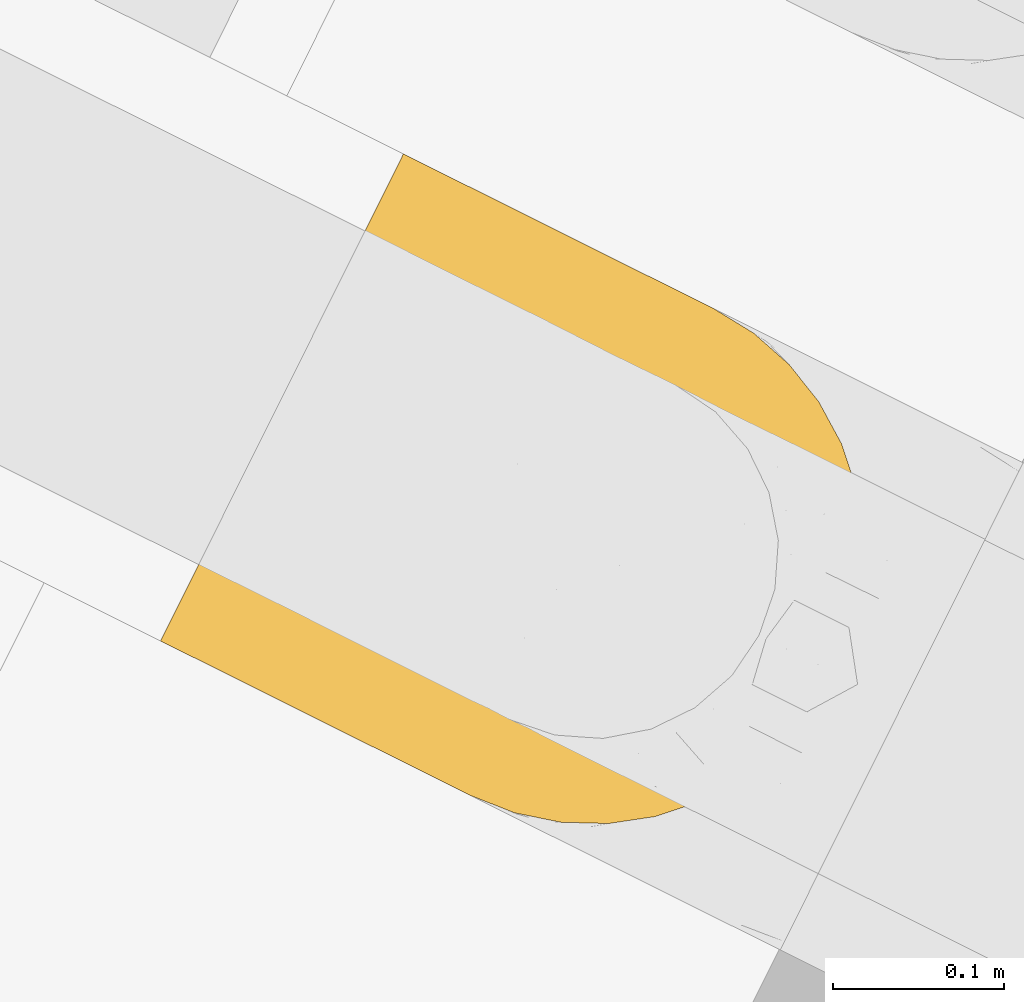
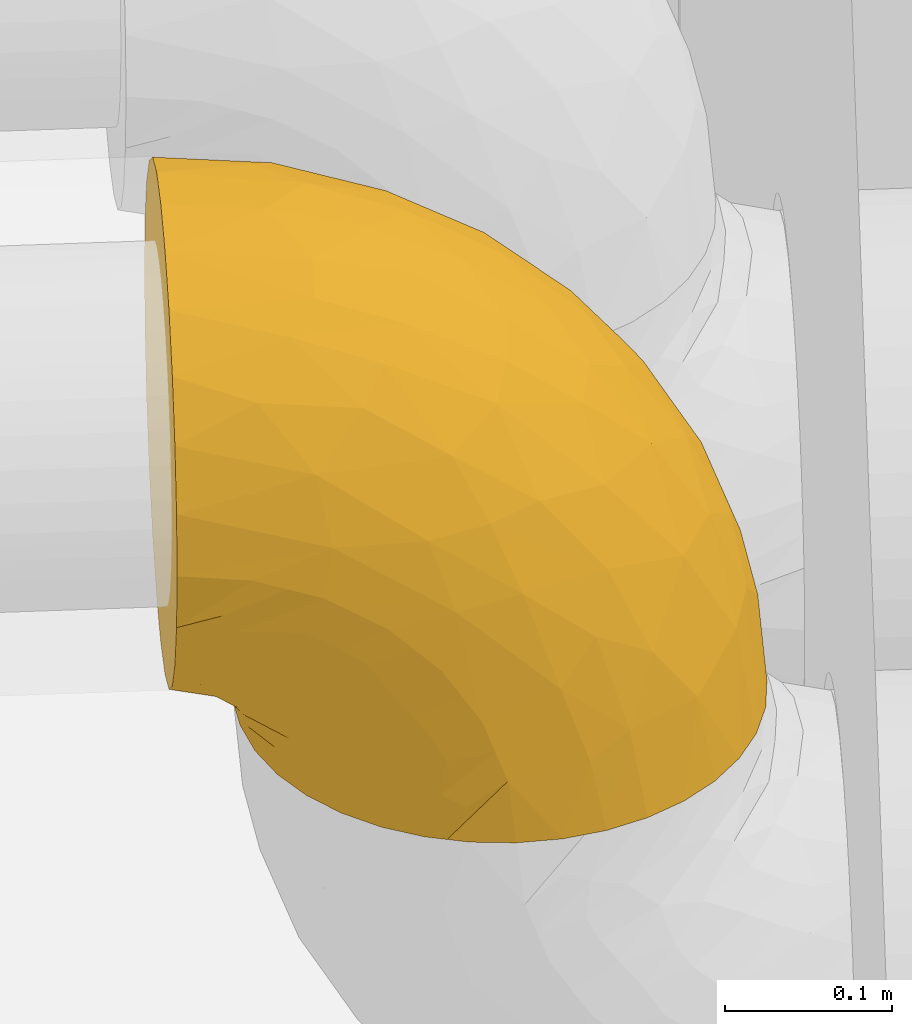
# One storey, part 44 of 91: 1 covering.
"""IFC2X3 building model written with IfcOpenShell, lengths in metres."""

from ifc_helpers import new_model, entity, si_unit, converted_unit, derived_unit, direction, frame, origin, place, context, subcontext, project, spatial, faceted_brep, element, save


model = new_model("IFC2X3")

# Units and contexts
model_context = context("Model", 3, precision=1e-05, world=origin(), true_north=direction((0.894925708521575, 0.446215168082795)))
context_of_model = context(None, 3, precision=1e-05, world=origin(), true_north=direction((0.894925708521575, 0.446215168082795)))
body_context = subcontext(model_context, "Body", "Model", "MODEL_VIEW")
ifc_project = project(units=[si_unit("LENGTHUNIT", "METRE"), si_unit("AREAUNIT", "SQUARE_METRE"), si_unit("VOLUMEUNIT", "CUBIC_METRE"), converted_unit("PLANEANGLEUNIT", "DEGREE", entity("IfcRatioMeasure", 0.0174532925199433), si_unit("PLANEANGLEUNIT", "RADIAN"), dimensions=[0, 0, 0, 0, 0, 0, 0]), si_unit("MASSUNIT", "GRAM", prefix="KILO"), si_unit("TIMEUNIT", "SECOND"), si_unit("FREQUENCYUNIT", "HERTZ"), si_unit("THERMODYNAMICTEMPERATUREUNIT", "DEGREE_CELSIUS"), derived_unit("THERMALTRANSMITTANCEUNIT", [(si_unit("MASSUNIT", "GRAM", prefix="KILO"), 1), (si_unit("THERMODYNAMICTEMPERATUREUNIT", "KELVIN"), -1), (si_unit("TIMEUNIT", "SECOND"), -3)]), derived_unit("VOLUMETRICFLOWRATEUNIT", [(si_unit("LENGTHUNIT", "METRE"), 3), (si_unit("TIMEUNIT", "SECOND"), -1)]), si_unit("ELECTRICCURRENTUNIT", "AMPERE"), si_unit("ELECTRICVOLTAGEUNIT", "VOLT"), si_unit("POWERUNIT", "WATT"), si_unit("FORCEUNIT", "NEWTON", prefix="KILO"), si_unit("ILLUMINANCEUNIT", "LUX"), si_unit("LUMINOUSFLUXUNIT", "LUMEN"), si_unit("LUMINOUSINTENSITYUNIT", "CANDELA"), si_unit("PRESSUREUNIT", "PASCAL")], contexts=[model_context, context_of_model])

# Site, building, storey
site_placement = place(None, frame((218.228324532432, 584.720189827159, 0.0), z_axis=(0.0, 0.0, 1.0), x_axis=(0.446215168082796, 0.894925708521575, 0.0)))
site = spatial("IfcSite", under=ifc_project, at=site_placement, Name="Default", CompositionType="ELEMENT")
building_placement = place(site_placement, origin())
building = spatial("IfcBuilding", under=site, at=building_placement, CompositionType="ELEMENT")
storey_placement = place(building_placement, origin())
storey = spatial("IfcBuildingStorey", under=building, at=storey_placement, Name="0 - Piano Terra", CompositionType="ELEMENT", Elevation=0.0)

# Covering
covering_placement = place(storey_placement, frame((-30.8033657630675, -4.95989083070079, 2.8714047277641)))
element("IfcCovering", 1, at=covering_placement, inside=storey, Name="Isolamento tubazione:Default", ObjectType="Isolamento tubazione:Default", PredefinedType="INSULATION", context=body_context, shape_type="Brep", body=[
    faceted_brep([(0.311074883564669, 0.215710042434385, 0.00159527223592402), (0.318272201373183, 0.18884600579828, 0.00159527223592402), (0.319748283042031, 0.17197132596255, 0.00159527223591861), (0.320695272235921, 0.161145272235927, 0.00159527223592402), (0.318271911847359, 0.133442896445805, 0.00159527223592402), (0.311073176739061, 0.106575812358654, 0.00159527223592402), (0.29931755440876, 0.0813666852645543, 0.00159527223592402), (0.283365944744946, 0.0585864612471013, 0.00159527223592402), (0.263703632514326, 0.0389242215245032, 0.00159527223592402), (0.240919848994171, 0.0229706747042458, 0.00159527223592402), (0.21571004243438, 0.0112156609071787, 0.00159527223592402), (0.188846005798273, 0.00401834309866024, 0.00159527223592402), (0.161145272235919, 0.00159527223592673, 0.00159527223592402), (0.133442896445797, 0.00401863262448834, 0.00159527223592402), (0.106575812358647, 0.0112173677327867, 0.00159527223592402), (0.0813666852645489, 0.0229729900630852, 0.00159527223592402), (0.0585864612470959, 0.038924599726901, 0.00159527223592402), (0.0389242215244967, 0.0585869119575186, 0.00159527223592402), (0.0229706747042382, 0.0813706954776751, 0.00159527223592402), (0.0112156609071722, 0.106580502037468, 0.00159527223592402), (0.00401834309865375, 0.133444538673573, 0.00159527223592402), (0.00159527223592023, 0.161145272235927, 0.00159527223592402), (0.00254231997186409, 0.17197134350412, 0.00159527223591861), (0.0040186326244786, 0.188847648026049, 0.00159527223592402), (0.00761800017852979, 0.202281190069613, 0.00159527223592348), (0.0112173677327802, 0.2157147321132, 0.00159527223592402), (0.0229729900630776, 0.240923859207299, 0.00159527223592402), (0.0389245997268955, 0.263704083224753, 0.00159527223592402), (0.058586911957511, 0.28336632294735, 0.00159527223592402), (0.0813706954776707, 0.299319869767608, 0.00159527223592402), (0.106580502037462, 0.311074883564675, 0.00159527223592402), (0.133444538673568, 0.318272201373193, 0.00159527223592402), (0.161145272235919, 0.320695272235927, 0.00159527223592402), (0.18884764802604, 0.318271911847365, 0.00159527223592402), (0.21571473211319, 0.311073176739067, 0.00159527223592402), (0.240923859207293, 0.299317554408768, 0.00159527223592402), (0.263704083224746, 0.283365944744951, 0.00159527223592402), (0.283366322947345, 0.263703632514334, 0.00159527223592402), (0.299319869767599, 0.240919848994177, 0.00159527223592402), (0.0483263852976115, 0.364145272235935, 0.0917763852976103), (0.0356486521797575, 0.364145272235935, 0.108298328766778), (0.0229709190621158, 0.364145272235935, 0.124820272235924), (0.0150013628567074, 0.364145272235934, 0.144060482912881), (0.00703180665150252, 0.364145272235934, 0.163300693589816), (0.00448125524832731, 0.364145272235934, 0.182674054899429), (0.00303826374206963, 0.364145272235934, 0.193634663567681), (0.00159527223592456, 0.364145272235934, 0.204595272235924), (0.00703180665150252, 0.364145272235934, 0.245889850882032), (0.0229709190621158, 0.364145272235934, 0.284370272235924), (0.0483263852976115, 0.364145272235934, 0.317414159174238), (0.0813702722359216, 0.364145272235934, 0.342769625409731), (0.119850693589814, 0.364145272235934, 0.358708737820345), (0.161145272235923, 0.364145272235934, 0.364145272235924), (0.202439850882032, 0.364145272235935, 0.358708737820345), (0.240920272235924, 0.364145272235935, 0.342769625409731), (0.273964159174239, 0.364145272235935, 0.317414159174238), (0.29931962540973, 0.364145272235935, 0.284370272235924), (0.315258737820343, 0.364145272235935, 0.245889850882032), (0.320695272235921, 0.364145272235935, 0.204595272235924), (0.31925228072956, 0.364145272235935, 0.193634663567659), (0.317809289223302, 0.364145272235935, 0.182674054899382), (0.315258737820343, 0.364145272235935, 0.163300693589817), (0.307289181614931, 0.364145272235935, 0.144060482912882), (0.29931962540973, 0.364145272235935, 0.124820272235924), (0.286641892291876, 0.364145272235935, 0.108298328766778), (0.273964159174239, 0.364145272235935, 0.0917763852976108), (0.240920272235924, 0.364145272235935, 0.0664209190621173), (0.202439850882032, 0.364145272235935, 0.0504818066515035), (0.161145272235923, 0.364145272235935, 0.0450452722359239), (0.119850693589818, 0.364145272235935, 0.0504818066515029), (0.0813702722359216, 0.364145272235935, 0.0664209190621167), (0.0648483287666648, 0.364145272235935, 0.0790986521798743), (0.201172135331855, 0.275645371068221, 0.347913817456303), (0.161145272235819, 0.301189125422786, 0.358637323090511), (0.161145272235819, 0.240145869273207, 0.342280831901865), (0.306467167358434, 0.192702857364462, 0.208704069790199), (0.317175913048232, 0.197037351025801, 0.168703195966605), (0.312260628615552, 0.257674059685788, 0.232411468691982), (0.320695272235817, 0.2375768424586, 0.160307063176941), (0.320695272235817, 0.256821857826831, 0.172399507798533), (0.320695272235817, 0.276066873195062, 0.184491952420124), (0.228888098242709, 0.223051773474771, 0.319112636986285), (0.198715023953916, 0.215164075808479, 0.327193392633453), (0.197144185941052, 0.159526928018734, 0.295886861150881), (0.265288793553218, 0.0926591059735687, 0.178199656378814), (0.279139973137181, 0.144663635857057, 0.221076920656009), (0.251711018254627, 0.130966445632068, 0.241221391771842), (0.227840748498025, 0.305777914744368, 0.344605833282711), (0.283559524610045, 0.314219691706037, 0.302813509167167), (0.309327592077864, 0.149883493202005, 0.152632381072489), (0.161145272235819, 0.182870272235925, 0.315572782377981), (0.161145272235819, 0.131102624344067, 0.279324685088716), (0.188773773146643, 0.109488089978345, 0.256252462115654), (0.161145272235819, 0.0864158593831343, 0.234637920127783), (0.320695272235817, 0.166234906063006, 0.0467670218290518), (0.317175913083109, 0.146967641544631, 0.094783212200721), (0.277616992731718, 0.250140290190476, 0.292067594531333), (0.296288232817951, 0.229011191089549, 0.25570716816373), (0.30429953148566, 0.301075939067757, 0.267671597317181), (0.222697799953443, 0.0236515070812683, 0.0834683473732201), (0.198695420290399, 0.0385683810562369, 0.150634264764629), (0.19067392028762, 0.0156740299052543, 0.0911457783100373), (0.320695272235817, 0.318973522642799, 0.199505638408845), (0.320695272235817, 0.341788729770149, 0.202076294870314), (0.320695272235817, 0.352967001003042, 0.203335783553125), (0.252196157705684, 0.292024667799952, 0.327735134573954), (0.161145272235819, 0.0234597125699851, 0.125594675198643), (0.161145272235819, 0.0501677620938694, 0.182870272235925), (0.320695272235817, 0.297520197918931, 0.191998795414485), (0.301023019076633, 0.0922467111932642, 0.067403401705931), (0.21956288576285, 0.115617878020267, 0.250122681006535), (0.204386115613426, 0.0731547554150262, 0.207684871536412), (0.233310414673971, 0.084601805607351, 0.204290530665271), (0.282350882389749, 0.0773627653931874, 0.11047740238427), (0.268310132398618, 0.0495812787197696, 0.0665622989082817), (0.289509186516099, 0.11429340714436, 0.163562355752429), (0.239797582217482, 0.0561833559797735, 0.149912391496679), (0.161145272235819, 0.00710322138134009, 0.064551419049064), (0.320695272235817, 0.162404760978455, 0.0127735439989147), (0.320695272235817, 0.163664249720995, 0.023951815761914), (0.320695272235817, 0.181248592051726, 0.0896736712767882), (0.320695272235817, 0.193341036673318, 0.10891868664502), (0.320695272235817, 0.20543348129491, 0.128163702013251), (0.320695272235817, 0.173741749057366, 0.0682203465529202), (0.320695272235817, 0.221505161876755, 0.144235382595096), (0.234514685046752, 0.166460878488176, 0.283951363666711), (0.267559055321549, 0.185436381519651, 0.269306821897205), (0.255020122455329, 0.223925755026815, 0.30254289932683), (0.193767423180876, 0.324911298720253, 0.0271465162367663), (0.317837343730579, 0.337277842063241, 0.172432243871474), (0.302389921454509, 0.237558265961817, 0.0253498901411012), (0.315096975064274, 0.328080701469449, 0.158613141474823), (0.290371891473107, 0.267743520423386, 0.0533645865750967), (0.268216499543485, 0.282779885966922, 0.0251720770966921), (0.272627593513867, 0.287013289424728, 0.045717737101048), (0.315587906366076, 0.270555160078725, 0.134992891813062), (0.31321863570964, 0.258245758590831, 0.114409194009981), (0.302643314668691, 0.285245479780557, 0.104008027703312), (0.314805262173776, 0.210134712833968, 0.0451423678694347), (0.242685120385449, 0.334476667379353, 0.0603938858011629), (0.267865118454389, 0.339736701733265, 0.0823838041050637), (0.26945072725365, 0.319015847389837, 0.0746164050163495), (0.296967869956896, 0.253348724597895, 0.0457848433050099), (0.310493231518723, 0.242127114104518, 0.0833280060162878), (0.315769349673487, 0.217507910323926, 0.0742742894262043), (0.263416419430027, 0.303705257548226, 0.0548255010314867), (0.292249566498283, 0.27527693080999, 0.0698784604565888), (0.246211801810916, 0.30110672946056, 0.0271436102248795), (0.289082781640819, 0.311576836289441, 0.0955577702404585), (0.203370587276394, 0.339341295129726, 0.0440145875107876), (0.224672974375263, 0.31951244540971, 0.0364709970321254), (0.317566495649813, 0.23262403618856, 0.111751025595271), (0.31854887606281, 0.217038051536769, 0.0998764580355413), (0.213089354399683, 0.314843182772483, 0.0185697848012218), (0.317379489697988, 0.196765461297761, 0.0347995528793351), (0.286225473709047, 0.295924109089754, 0.0800249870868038), (0.291795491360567, 0.344962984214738, 0.111352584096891), (0.161145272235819, 0.326516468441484, 0.023320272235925), (0.161145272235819, 0.342420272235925, 0.0392240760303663), (0.291152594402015, 0.329719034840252, 0.106606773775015), (0.317781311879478, 0.29329998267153, 0.159036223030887), (0.314129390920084, 0.289482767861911, 0.14050134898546), (0.305217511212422, 0.297029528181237, 0.118092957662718), (0.3083110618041, 0.315309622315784, 0.13426083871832), (0.309107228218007, 0.255196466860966, 0.0946896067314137), (0.304103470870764, 0.339551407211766, 0.13144064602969), (0.0481611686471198, 0.280281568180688, 0.0352015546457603), (0.030190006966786, 0.274410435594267, 0.0683770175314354), (0.0185577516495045, 0.247884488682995, 0.0628508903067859), (0.130051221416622, 0.323578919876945, 0.0243434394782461), (0.119520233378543, 0.336527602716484, 0.0420410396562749), (0.0579185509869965, 0.343779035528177, 0.0803473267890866), (0.0377646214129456, 0.338896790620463, 0.100255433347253), (0.0138743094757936, 0.267508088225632, 0.10512095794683), (0.00429194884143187, 0.249727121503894, 0.132405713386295), (0.0131660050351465, 0.288664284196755, 0.123461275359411), (0.00537209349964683, 0.223062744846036, 0.0937077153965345), (0.0150970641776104, 0.257122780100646, 0.0899238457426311), (0.00159527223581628, 0.193341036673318, 0.108918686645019), (0.00497002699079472, 0.211214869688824, 0.0766563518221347), (0.00159527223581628, 0.318973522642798, 0.199505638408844), (0.00159527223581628, 0.341788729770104, 0.202076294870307), (0.00159527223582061, 0.352967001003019, 0.203335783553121), (0.0564962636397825, 0.327025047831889, 0.0753443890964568), (0.0378033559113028, 0.320742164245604, 0.0936706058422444), (0.00445320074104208, 0.337277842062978, 0.17243224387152), (0.110600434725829, 0.314621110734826, 0.0163235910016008), (0.078110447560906, 0.301284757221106, 0.0240766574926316), (0.100177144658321, 0.318085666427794, 0.0326633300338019), (0.0143592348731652, 0.316513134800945, 0.133742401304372), (0.0184044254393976, 0.340160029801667, 0.131110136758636), (0.056848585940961, 0.294403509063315, 0.0452142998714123), (0.00159527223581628, 0.29752019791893, 0.191998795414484), (0.0365446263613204, 0.302061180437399, 0.0842148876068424), (0.00719356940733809, 0.32808070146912, 0.158613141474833), (0.00159527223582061, 0.16240476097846, 0.0127735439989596), (0.00159527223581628, 0.163664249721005, 0.0239518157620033), (0.00159527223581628, 0.166234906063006, 0.0467670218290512), (0.0326636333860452, 0.259460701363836, 0.0297424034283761), (0.00538278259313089, 0.237066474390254, 0.112156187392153), (0.00159527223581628, 0.221505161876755, 0.144235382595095), (0.0136433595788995, 0.228265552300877, 0.0434416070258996), (0.0807011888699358, 0.336132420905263, 0.0604863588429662), (0.00159527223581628, 0.181248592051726, 0.0896736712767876), (0.00159527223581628, 0.173741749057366, 0.0682203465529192), (0.00401153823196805, 0.190630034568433, 0.0268111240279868), (0.00708777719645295, 0.206112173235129, 0.0348646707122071), (0.00434202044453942, 0.264351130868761, 0.143549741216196), (0.00159527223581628, 0.276066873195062, 0.184491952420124), (0.0809621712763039, 0.320790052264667, 0.050107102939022), (0.0539826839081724, 0.304186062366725, 0.0615545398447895), (0.0046853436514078, 0.202773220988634, 0.0603958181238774), (0.00426342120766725, 0.288174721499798, 0.15807138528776), (0.00159527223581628, 0.20543348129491, 0.12816370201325), (0.00159527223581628, 0.2375768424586, 0.16030706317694), (0.00159527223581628, 0.256821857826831, 0.172399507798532), (0.00511463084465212, 0.197037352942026, 0.168703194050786), (0.133516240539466, 0.109488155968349, 0.256252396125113), (0.117903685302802, 0.0731551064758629, 0.207685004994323), (0.0185835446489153, 0.279870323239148, 0.262986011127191), (0.0446735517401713, 0.250140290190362, 0.292067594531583), (0.0387310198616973, 0.314219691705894, 0.302813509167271), (0.00511463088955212, 0.270957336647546, 0.218772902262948), (0.0539801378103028, 0.0495818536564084, 0.0665638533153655), (0.0212654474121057, 0.0922510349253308, 0.067405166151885), (0.00960242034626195, 0.13430515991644, 0.107126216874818), (0.0705791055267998, 0.104351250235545, 0.212070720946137), (0.0431505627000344, 0.144663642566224, 0.221076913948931), (0.0425043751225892, 0.104304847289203, 0.170072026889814), (0.102726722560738, 0.115618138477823, 0.250122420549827), (0.0713886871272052, 0.168429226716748, 0.273365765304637), (0.125145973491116, 0.159526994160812, 0.295886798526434), (0.0946001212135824, 0.276041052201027, 0.338268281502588), (0.070094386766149, 0.29202466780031, 0.327735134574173), (0.131839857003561, 0.214728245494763, 0.328942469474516), (0.0972173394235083, 0.161374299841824, 0.285870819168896), (0.093402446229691, 0.223051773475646, 0.319112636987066), (0.121118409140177, 0.275645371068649, 0.347913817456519), (0.0255526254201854, 0.175378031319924, 0.217897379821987), (0.00962930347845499, 0.116541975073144, 0.0535290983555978), (0.0673614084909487, 0.236336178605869, 0.308091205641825), (0.0824907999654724, 0.0561838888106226, 0.149910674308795), (0.0995884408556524, 0.0236528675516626, 0.0834663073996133), (0.123593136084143, 0.0385687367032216, 0.150633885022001), (0.0129629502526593, 0.213108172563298, 0.21585705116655), (0.0397068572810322, 0.197487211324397, 0.258806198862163), (0.0399379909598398, 0.0773644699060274, 0.110476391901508), (0.131613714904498, 0.0156734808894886, 0.0911414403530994), (0.0159523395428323, 0.156378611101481, 0.17268666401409), (0.0240614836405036, 0.112245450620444, 0.1341223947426)], [[[0, 1, 2, 3, 4, 5, 6, 7, 8, 9, 10, 11, 12, 13, 14, 15, 16, 17, 18, 19, 20, 21, 22, 23, 24, 25, 26, 27, 28, 29, 30, 31, 32, 33, 34, 35, 36, 37, 38]], [[39, 40, 41, 42, 43, 44, 45, 46, 47, 48, 49, 50, 51, 52, 53, 54, 55, 56, 57, 58, 59, 60, 61, 62, 63, 64, 65, 66, 67, 68, 69, 70, 71]], [[72, 73, 74]], [[73, 53, 52]], [[75, 76, 77]], [[76, 78, 79, 80]], [[81, 82, 83]], [[84, 85, 86]], [[87, 53, 72]], [[88, 56, 55]], [[89, 76, 75]], [[83, 82, 90]], [[91, 83, 90]], [[92, 91, 93]], [[4, 94, 95]], [[96, 97, 98]], [[99, 100, 101]], [[57, 102, 103, 104, 58]], [[55, 54, 105]], [[106, 100, 107]], [[98, 57, 56]], [[77, 80, 108, 102]], [[6, 5, 109]], [[102, 57, 77]], [[110, 111, 112]], [[89, 95, 76]], [[76, 80, 77]], [[91, 92, 83]], [[109, 113, 114]], [[115, 109, 89]], [[111, 107, 100]], [[109, 4, 95]], [[9, 99, 10]], [[105, 96, 88]], [[11, 10, 101]], [[99, 9, 114]], [[99, 114, 116]], [[99, 101, 10]], [[82, 81, 72]], [[8, 114, 9]], [[113, 116, 114]], [[117, 12, 11]], [[117, 101, 106]], [[114, 7, 6]], [[4, 3, 118, 119, 94]], [[95, 120, 121, 122]], [[110, 112, 86]], [[85, 84, 115]], [[85, 75, 97]], [[95, 94, 123, 120]], [[116, 112, 111]], [[76, 95, 122]], [[53, 73, 72]], [[76, 122, 124, 78]], [[99, 116, 100]], [[7, 114, 8]], [[6, 109, 114]], [[81, 105, 87]], [[125, 83, 110]], [[92, 111, 110]], [[4, 109, 5]], [[125, 126, 127]], [[89, 109, 95]], [[97, 75, 77]], [[115, 75, 85]], [[98, 97, 77]], [[97, 96, 126]], [[93, 107, 111]], [[83, 92, 110]], [[111, 92, 93]], [[116, 111, 100]], [[57, 98, 77]], [[98, 56, 88]], [[87, 105, 54]], [[105, 81, 127]], [[84, 112, 116]], [[112, 84, 86]], [[116, 113, 84]], [[115, 84, 113]], [[126, 86, 85]], [[125, 110, 86]], [[97, 126, 85]], [[127, 126, 96]], [[126, 125, 86]], [[83, 125, 81]], [[109, 115, 113]], [[75, 115, 89]], [[105, 127, 96]], [[125, 127, 81]], [[106, 101, 100]], [[11, 101, 117]], [[105, 88, 55]], [[98, 88, 96]], [[72, 74, 82]], [[90, 82, 74]], [[53, 87, 54]], [[81, 87, 72]], [[104, 103, 102, 61, 60, 59, 58]], [[33, 32, 128]], [[61, 129, 62]], [[130, 38, 37]], [[63, 62, 131]], [[102, 129, 61]], [[132, 133, 134]], [[135, 136, 137]], [[130, 138, 38]], [[139, 140, 141]], [[142, 143, 144]], [[134, 145, 146]], [[147, 35, 34]], [[141, 140, 148]], [[149, 68, 67]], [[67, 66, 139]], [[142, 36, 133]], [[134, 133, 147]], [[150, 128, 149]], [[136, 124, 151]], [[151, 122, 152]], [[147, 153, 150]], [[142, 37, 36]], [[34, 153, 147]], [[94, 0, 154]], [[138, 123, 154]], [[119, 118, 3, 2, 1, 94]], [[149, 67, 139]], [[145, 155, 146]], [[94, 1, 0]], [[156, 65, 64]], [[138, 130, 144]], [[157, 128, 32]], [[150, 153, 128]], [[154, 38, 138]], [[138, 120, 123]], [[149, 128, 158]], [[35, 133, 36]], [[35, 147, 133]], [[34, 33, 153]], [[145, 147, 150]], [[159, 148, 140]], [[144, 120, 138]], [[160, 131, 80]], [[161, 135, 162]], [[108, 131, 129]], [[80, 131, 108]], [[159, 156, 163]], [[150, 139, 145]], [[155, 141, 148]], [[142, 132, 143]], [[152, 144, 143]], [[108, 129, 102]], [[131, 62, 129]], [[33, 128, 153]], [[158, 128, 157]], [[149, 158, 68]], [[139, 150, 149]], [[164, 136, 151]], [[144, 152, 121]], [[164, 155, 137]], [[135, 78, 136]], [[145, 134, 147]], [[132, 134, 146]], [[143, 132, 146]], [[133, 132, 142]], [[37, 142, 130]], [[144, 130, 142]], [[141, 145, 139]], [[137, 155, 148]], [[137, 162, 135]], [[137, 136, 164]], [[162, 137, 148]], [[159, 162, 148]], [[160, 79, 161]], [[79, 78, 135]], [[161, 162, 163]], [[160, 161, 163]], [[79, 135, 161]], [[160, 163, 165]], [[79, 160, 80]], [[145, 141, 155]], [[140, 139, 66]], [[66, 65, 140]], [[159, 163, 162]], [[140, 65, 159]], [[63, 165, 64]], [[156, 159, 65]], [[63, 131, 165]], [[160, 165, 131]], [[64, 165, 156]], [[163, 156, 165]], [[121, 152, 122]], [[121, 120, 144]], [[151, 152, 143]], [[164, 151, 143]], [[143, 146, 164]], [[124, 136, 78]], [[124, 122, 151]], [[164, 146, 155]], [[94, 154, 123]], [[38, 154, 0]], [[28, 166, 29]], [[167, 166, 168]], [[158, 169, 170]], [[71, 171, 172]], [[158, 157, 169]], [[173, 174, 175]], [[168, 176, 177]], [[170, 68, 158]], [[178, 176, 179]], [[171, 71, 70]], [[45, 44, 43, 180, 181, 182, 46]], [[171, 183, 184]], [[43, 42, 185]], [[186, 187, 188]], [[172, 39, 71]], [[189, 190, 172]], [[191, 188, 187]], [[185, 192, 180]], [[191, 187, 166]], [[184, 183, 193]], [[31, 30, 186]], [[194, 42, 41]], [[22, 21, 195, 196, 197, 23]], [[187, 30, 29]], [[166, 187, 29]], [[28, 198, 166]], [[199, 200, 174]], [[27, 26, 201]], [[27, 198, 28]], [[186, 169, 31]], [[70, 69, 202]], [[203, 178, 179]], [[201, 168, 198]], [[204, 205, 197]], [[204, 206, 205]], [[175, 184, 193]], [[205, 24, 197]], [[174, 207, 175]], [[194, 208, 192]], [[68, 170, 69]], [[183, 209, 210]], [[166, 198, 168]], [[169, 32, 31]], [[167, 210, 191]], [[201, 198, 27]], [[203, 179, 211]], [[25, 206, 26]], [[185, 180, 43]], [[172, 190, 40]], [[194, 189, 212]], [[187, 186, 30]], [[169, 186, 188]], [[169, 188, 170]], [[169, 157, 32]], [[209, 170, 188]], [[69, 170, 202]], [[42, 194, 185]], [[192, 185, 194]], [[211, 204, 203]], [[201, 26, 206]], [[177, 176, 199]], [[193, 167, 173]], [[199, 176, 213]], [[213, 176, 178]], [[179, 168, 201]], [[200, 214, 174]], [[177, 199, 173]], [[199, 213, 200]], [[168, 179, 176]], [[179, 201, 211]], [[201, 206, 211]], [[204, 211, 206]], [[212, 175, 207]], [[199, 174, 173]], [[207, 174, 214]], [[172, 175, 189]], [[214, 215, 207]], [[208, 212, 215]], [[207, 215, 212]], [[194, 212, 208]], [[212, 189, 175]], [[167, 191, 166]], [[191, 210, 209]], [[24, 205, 25]], [[24, 23, 197]], [[206, 25, 205]], [[202, 183, 171]], [[202, 171, 70]], [[171, 184, 172]], [[175, 172, 184]], [[190, 41, 40]], [[190, 194, 41]], [[39, 172, 40]], [[194, 190, 189]], [[209, 183, 202]], [[193, 183, 210]], [[167, 193, 210]], [[175, 193, 173]], [[170, 209, 202]], [[191, 209, 188]], [[173, 167, 177]], [[168, 177, 167]], [[216, 208, 215, 214]], [[93, 217, 218]], [[219, 220, 221]], [[222, 46, 182, 181, 180]], [[222, 208, 216]], [[223, 224, 18]], [[203, 225, 216]], [[226, 227, 228]], [[18, 224, 19]], [[216, 214, 200, 213]], [[229, 230, 226]], [[217, 231, 229]], [[232, 50, 233]], [[90, 74, 234]], [[73, 52, 51]], [[223, 16, 15]], [[49, 48, 221]], [[235, 236, 230]], [[49, 233, 50]], [[74, 73, 237]], [[227, 238, 228]], [[236, 231, 234]], [[20, 19, 239]], [[234, 74, 237]], [[233, 240, 236]], [[231, 91, 90]], [[225, 203, 204, 197]], [[241, 242, 243]], [[222, 180, 192, 208]], [[107, 93, 218]], [[239, 197, 20]], [[20, 197, 196, 195, 21]], [[232, 51, 50]], [[244, 222, 216]], [[47, 222, 219]], [[245, 230, 240]], [[246, 224, 223]], [[243, 106, 107]], [[48, 47, 219]], [[18, 17, 223]], [[73, 51, 237]], [[15, 242, 223]], [[16, 223, 17]], [[247, 243, 242]], [[15, 14, 242]], [[243, 218, 241]], [[106, 243, 247]], [[91, 217, 93]], [[247, 13, 117]], [[46, 222, 47]], [[12, 117, 13]], [[248, 216, 225]], [[219, 222, 244]], [[242, 241, 223]], [[228, 248, 249]], [[244, 245, 219]], [[14, 13, 247]], [[244, 216, 248]], [[245, 244, 238]], [[216, 213, 178, 203]], [[241, 246, 223]], [[249, 224, 246]], [[239, 224, 225]], [[249, 225, 224]], [[238, 244, 248]], [[231, 217, 91]], [[218, 217, 229]], [[218, 229, 226]], [[107, 218, 243]], [[249, 246, 228]], [[248, 225, 249]], [[233, 49, 221]], [[232, 233, 236]], [[224, 239, 19]], [[197, 239, 225]], [[246, 241, 228]], [[231, 235, 229]], [[228, 241, 226]], [[218, 226, 241]], [[230, 236, 240]], [[227, 226, 230]], [[228, 238, 248]], [[245, 238, 227]], [[230, 245, 227]], [[219, 245, 220]], [[247, 242, 14]], [[106, 247, 117]], [[219, 221, 48]], [[233, 221, 220]], [[236, 234, 237]], [[90, 234, 231]], [[233, 220, 240]], [[240, 220, 245]], [[236, 237, 232]], [[232, 237, 51]], [[236, 235, 231]], [[230, 229, 235]]]),
])

save(model, "model.ifc")
